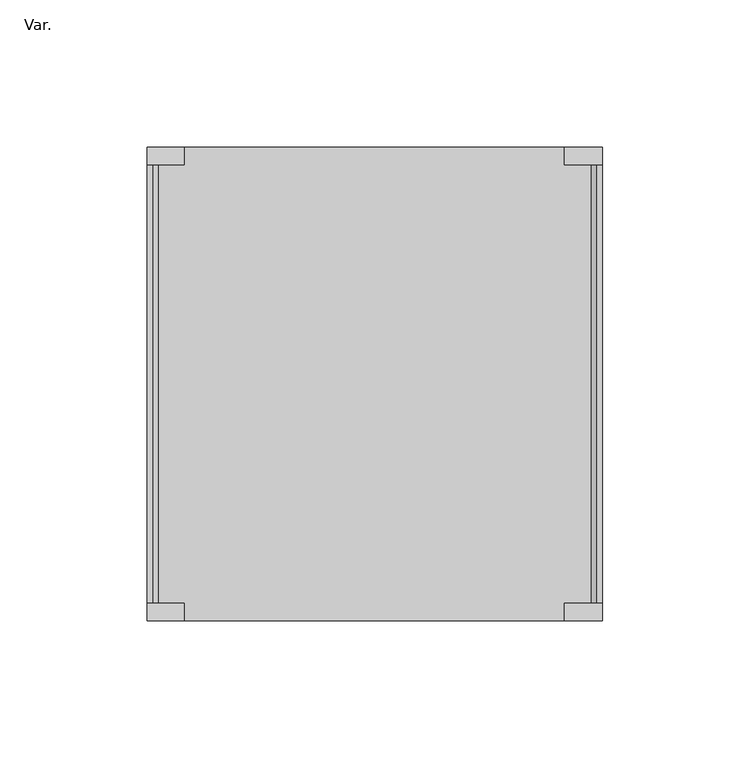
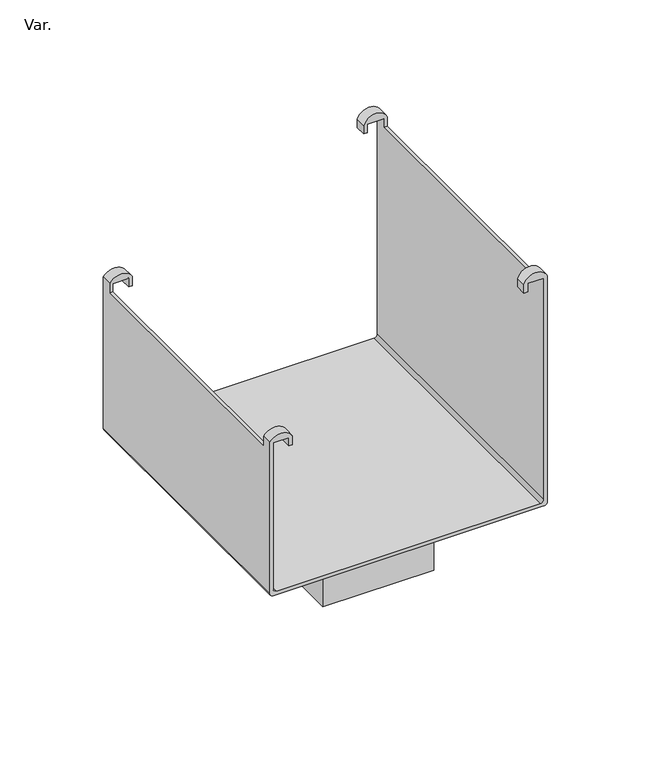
"""IFC4 building model written with IfcOpenShell, lengths in millimetres: pipe fitting geometry, AmancoWavin_Unionesdetubería_CanalesyBajantesZ_NoUsarBoquillaRectangularAltoCaudal : Var.."""

from ifc_helpers import new_model, si_unit, frame, origin, place, context, project, spatial, polyline, circle_curve, outline, extrude, source, transform, mapped, element, save
from ifc_brep_helpers import plane_surface, cylinder_surface, revolved_surface, advanced_brep


def var_f527e958(model_context):
    return source(origin(), model_context, "Body", "SolidModel", [
        advanced_brep(
        [(-75.6, 24.0, 2.1015351), (-75.6, 24.0, 88.3386875), (-66.8596126, 24.0, 88.3386875), (-66.8596126, 24.0, 83.410643), (-64.8391441, 24.0, 83.410643), (-64.8391441, 24.0, 88.7811864), (-77.4615797, 24.0, 89.2345275), (-77.4615797, 24.0, 0.0630881), (-75.5215619, 24.0, -1.8769298), (75.5307517, 24.0, -1.8769298), (77.4768961, 24.0, 0.0692146), (77.4768961, 24.0, 133.3447401), (64.4388817, 24.0, 132.5716882), (64.4388817, 24.0, 127.65), (66.4594409, 24.0, 127.65), (66.4594409, 24.0, 132.6386714), (75.6, 24.0, 132.6386714), (75.6, 24.0, 2.0815351), (73.58, 24.0, 0.0615351), (-73.56, 24.0, 0.0615351), (-75.6, 185.0, 2.1015351), (-73.56, 185.0, 0.0615351), (73.58, 185.0, 0.0615351), (75.6, 185.0, 2.0815351), (75.6, 185.0, 132.6386714), (66.4594409, 185.0, 132.6386714), (66.4594409, 185.0, 127.65), (64.4388817, 185.0, 127.65), (64.4388817, 185.0, 132.5716882), (77.4768961, 185.0, 133.3447401), (77.4768961, 185.0, 0.0692146), (75.5307517, 185.0, -1.8769298), (-75.5215619, 185.0, -1.8769298), (-77.4615797, 185.0, 0.0630881), (-77.4615797, 185.0, 89.2345275), (-64.8391441, 185.0, 88.7811864), (-64.8391441, 185.0, 83.410643), (-66.8596126, 185.0, 83.410643), (-66.8596126, 185.0, 88.3386875), (-75.6, 185.0, 88.3386875), (-77.4615797, 30.0, 89.2345275), (-77.4615797, 30.0, 83.41), (-77.4615797, 179.0, 83.41), (-77.4615797, 179.0, 89.2345275), (77.4768961, 179.0, 133.3447401), (77.4768961, 179.0, 127.65), (77.4768961, 30.0, 127.65), (77.4768961, 30.0, 133.3447401), (75.6, 30.0, 132.6386714), (75.6, 30.0, 127.65), (75.6, 179.0, 127.65), (75.6, 179.0, 132.6386714), (-75.6, 179.0, 88.3386875), (-75.6, 179.0, 83.41), (-75.6, 30.0, 83.41), (-75.6, 30.0, 88.3386875), (-66.8596126, 30.0, 88.3386875), (-66.8596126, 179.0, 88.3386875), (-66.8596126, 30.0, 83.410643), (-66.8596126, 179.0, 83.410643), (-64.8391441, 30.0, 83.410643), (-64.8391441, 179.0, 83.410643), (-64.8391441, 30.0, 88.7811864), (-64.8391441, 179.0, 88.7811864), (64.4388817, 30.0, 132.5716882), (64.4388817, 179.0, 132.5716882), (64.4388817, 30.0, 127.65), (64.4388817, 179.0, 127.65), (66.4594409, 30.0, 127.65), (66.4594409, 179.0, 127.65), (66.4594409, 30.0, 132.6386714), (66.4594409, 179.0, 132.6386714)],
        [
            (0, 1),
            (1, 2),
            (2, 3),
            (3, 4),
            (4, 5),
            (5, 6, circle_curve(frame((-71.2999013, 24.0, 84.8442116), z_axis=(0.0, -1.0, 0.0), x_axis=(1.0, 0.0, 0.0)), 7.5657884)),
            (6, 7),
            (7, 8, circle_curve(frame((-75.5215619, 24.0, 0.0630881), z_axis=(0.0, -1.0, 0.0), x_axis=(1.0, 0.0, 0.0)), 1.9400178)),
            (8, 9),
            (9, 10, circle_curve(frame((75.5307517, 24.0, 0.0692146), z_axis=(0.0, -1.0, 0.0), x_axis=(1.0, 0.0, 0.0)), 1.9461444)),
            (10, 11),
            (11, 12, circle_curve(frame((71.1017512, 24.0, 130.531885), z_axis=(0.0, -1.0, 0.0), x_axis=(1.0, 0.0, 0.0)), 6.968115)),
            (12, 13),
            (13, 14),
            (14, 15),
            (15, 16),
            (16, 17),
            (17, 18, circle_curve(frame((73.58, 24.0, 2.0815351), z_axis=(0.0, 1.0, 0.0), x_axis=(1.0, 0.0, 0.0)), 2.02)),
            (18, 19),
            (19, 0, circle_curve(frame((-73.56, 24.0, 2.1015351), z_axis=(0.0, 1.0, 0.0), x_axis=(1.0, 0.0, 0.0)), 2.04)),
            (20, 21, circle_curve(frame((-73.56, 185.0, 2.1015351), z_axis=(0.0, -1.0, 0.0), x_axis=(1.0, 0.0, 0.0)), 2.04)),
            (21, 22),
            (22, 23, circle_curve(frame((73.58, 185.0, 2.0815351), z_axis=(0.0, -1.0, 0.0), x_axis=(1.0, 0.0, 0.0)), 2.02)),
            (23, 24),
            (24, 25),
            (25, 26),
            (26, 27),
            (27, 28),
            (28, 29, circle_curve(frame((71.1017512, 185.0, 130.531885), z_axis=(0.0, 1.0, 0.0), x_axis=(1.0, 0.0, 0.0)), 6.968115)),
            (29, 30),
            (30, 31, circle_curve(frame((75.5307517, 185.0, 0.0692146), z_axis=(0.0, 1.0, 0.0), x_axis=(1.0, 0.0, 0.0)), 1.9461444)),
            (31, 32),
            (32, 33, circle_curve(frame((-75.5215619, 185.0, 0.0630881), z_axis=(0.0, 1.0, 0.0), x_axis=(1.0, 0.0, 0.0)), 1.9400178)),
            (33, 34),
            (34, 35, circle_curve(frame((-71.2999013, 185.0, 84.8442116), z_axis=(0.0, 1.0, 0.0), x_axis=(1.0, 0.0, 0.0)), 7.5657884)),
            (35, 36),
            (36, 37),
            (37, 38),
            (38, 39),
            (39, 20),
            (6, 40),
            (40, 41),
            (41, 42),
            (42, 43),
            (43, 34),
            (33, 7),
            (8, 32),
            (31, 9),
            (10, 30),
            (29, 44),
            (44, 45),
            (45, 46),
            (46, 47),
            (47, 11),
            (16, 48),
            (48, 49),
            (49, 50),
            (50, 51),
            (51, 24),
            (23, 17),
            (18, 22),
            (21, 19),
            (0, 20),
            (39, 52),
            (52, 53),
            (53, 54),
            (54, 55),
            (55, 1),
            (55, 56),
            (56, 2),
            (38, 57),
            (57, 52),
            (56, 58),
            (58, 3),
            (37, 59),
            (59, 57),
            (58, 60),
            (60, 4),
            (36, 61),
            (61, 59),
            (60, 62),
            (62, 5),
            (35, 63),
            (63, 61),
            (62, 40, circle_curve(frame((-71.2999013, 30.0, 84.8442116), z_axis=(0.0, -1.0, 0.0), x_axis=(1.0, 0.0, 0.0)), 7.5657884)),
            (43, 63, circle_curve(frame((-71.2999013, 179.0, 84.8442116), z_axis=(0.0, 1.0, 0.0), x_axis=(1.0, 0.0, 0.0)), 7.5657884)),
            (47, 64, circle_curve(frame((71.1017512, 30.0, 130.531885), z_axis=(0.0, -1.0, 0.0), x_axis=(1.0, 0.0, 0.0)), 6.968115)),
            (64, 12),
            (28, 65),
            (65, 44, circle_curve(frame((71.1017512, 179.0, 130.531885), z_axis=(0.0, 1.0, 0.0), x_axis=(1.0, 0.0, 0.0)), 6.968115)),
            (64, 66),
            (66, 13),
            (27, 67),
            (67, 65),
            (66, 68),
            (68, 14),
            (26, 69),
            (69, 67),
            (68, 70),
            (70, 15),
            (25, 71),
            (71, 69),
            (70, 48),
            (51, 71),
            (53, 42),
            (41, 54),
            (45, 50),
            (49, 46),
        ],
        [
            plane_surface(frame((-75.6, 24.0, 88.3386875), z_axis=(0.0, -1.0, 0.0), x_axis=(0.0, 0.0, 1.0))),
            plane_surface(frame((-75.6, 185.0, 88.3386875), z_axis=(0.0, 1.0, 0.0), x_axis=(0.0, 0.0, -1.0))),
            plane_surface(frame((-77.4615797, 24.0, 89.2345275), z_axis=(-1.0, 0.0, 0.0), x_axis=(0.0, 1.0, 0.0))),
            plane_surface(frame((-75.5215619, 24.0, -1.8769298), z_axis=(0.0, 0.0, -1.0), x_axis=(0.0, 1.0, 0.0))),
            plane_surface(frame((77.4768961, 24.0, 0.0692146), z_axis=(1.0, 0.0, 0.0), x_axis=(0.0, 1.0, 0.0))),
            plane_surface(frame((75.6, 24.0, 132.6386714), z_axis=(-1.0, 0.0, 0.0), x_axis=(0.0, 1.0, 0.0))),
            plane_surface(frame((73.58, 24.0, 0.0615351), z_axis=(0.0, 0.0, 1.0), x_axis=(0.0, 1.0, 0.0))),
            plane_surface(frame((-75.6, 24.0, 2.1015351), z_axis=(1.0, 0.0, 0.0), x_axis=(0.0, 1.0, 0.0))),
            plane_surface(frame((-75.6, 24.0, 88.3386875), z_axis=(0.0, 0.0, -1.0), x_axis=(0.0, 1.0, 0.0))),
            plane_surface(frame((-66.8596126, 24.0, 88.3386875), z_axis=(-1.0, 0.0, 0.0), x_axis=(0.0, 1.0, 0.0))),
            plane_surface(frame((-66.8596126, 24.0, 83.410643), z_axis=(0.0, 0.0, -1.0), x_axis=(0.0, 1.0, 0.0))),
            plane_surface(frame((-64.8391441, 24.0, 83.410643), z_axis=(1.0, 0.0, 0.0), x_axis=(0.0, 1.0, 0.0))),
            cylinder_surface(frame((-71.2999013, 185.0, 84.8442116), z_axis=(0.0, -1.0, 0.0), x_axis=(1.0, 0.0, 0.0)), 7.5657884),
            cylinder_surface(frame((71.1017512, 185.0, 130.531885), z_axis=(0.0, -1.0, 0.0), x_axis=(1.0, 0.0, 0.0)), 6.968115),
            plane_surface(frame((64.4388817, 24.0, 132.5716882), z_axis=(-1.0, 0.0, 0.0), x_axis=(0.0, 1.0, 0.0))),
            plane_surface(frame((64.4388817, 24.0, 127.65), z_axis=(0.0, 0.0, -1.0), x_axis=(0.0, 1.0, 0.0))),
            plane_surface(frame((66.4594409, 24.0, 127.65), z_axis=(1.0, 0.0, 0.0), x_axis=(0.0, 1.0, 0.0))),
            plane_surface(frame((66.4594409, 24.0, 132.6386714), z_axis=(0.0, 0.0, -1.0), x_axis=(0.0, 1.0, 0.0))),
            cylinder_surface(frame((-75.5215619, 185.0, 0.0630881), z_axis=(0.0, -1.0, 0.0), x_axis=(1.0, 0.0, 0.0)), 1.9400178),
            cylinder_surface(frame((75.5307517, 185.0, 0.0692146), z_axis=(0.0, -1.0, 0.0), x_axis=(1.0, 0.0, 0.0)), 1.9461444),
            revolved_surface(polyline([(75.6, 185.0, 2.0815351), (75.6, 24.0, 2.0815351)]), (73.58, 185.0, 2.0815351), (0.0, 1.0, 0.0)),
            revolved_surface(polyline([(-71.52, 185.0, 2.1015351), (-71.52, 24.0, 2.1015351)]), (-73.56, 185.0, 2.1015351), (0.0, 1.0, 0.0)),
            plane_surface(frame((-75.6, 179.0, 83.41), z_axis=(0.0, 0.0, 1.0), x_axis=(1.0, 0.0, 0.0))),
            plane_surface(frame((-64.8391441, 179.0, 92.8702181), z_axis=(0.0, -1.0, 0.0), x_axis=(0.0, 0.0, -1.0))),
            plane_surface(frame((-77.4615797, 30.0, 92.8702181), z_axis=(0.0, 1.0, 0.0), x_axis=(0.0, 0.0, -1.0))),
            plane_surface(frame((64.4388817, 179.0, 127.65), z_axis=(0.0, 0.0, 1.0), x_axis=(1.0, 0.0, 0.0))),
            plane_surface(frame((77.4768961, 179.0, 137.9622861), z_axis=(0.0, -1.0, 0.0), x_axis=(0.0, 0.0, -1.0))),
            plane_surface(frame((64.4388817, 30.0, 137.9622861), z_axis=(0.0, 1.0, 0.0), x_axis=(0.0, 0.0, -1.0))),
        ],
        [
            (0, [[1, 2, 3, 4, 5, 6, 7, 8, 9, 10, 11, 12, 13, 14, 15, 16, 17, 18, 19, 20]]),
            (1, [[21, 22, 23, 24, 25, 26, 27, 28, 29, 30, 31, 32, 33, 34, 35, 36, 37, 38, 39, 40]]),
            (2, [[-7, 41, 42, 43, 44, 45, -34, 46]]),
            (3, [[-9, 47, -32, 48]]),
            (4, [[-11, 49, -30, 50, 51, 52, 53, 54]]),
            (5, [[-17, 55, 56, 57, 58, 59, -24, 60]]),
            (6, [[-19, 61, -22, 62]]),
            (7, [[-1, 63, -40, 64, 65, 66, 67, 68]]),
            (8, [[-2, -68, 69, 70]]),
            (8, [[-39, 71, 72, -64]]),
            (9, [[-3, -70, 73, 74]]),
            (9, [[-38, 75, 76, -71]]),
            (10, [[-4, -74, 77, 78]]),
            (10, [[-37, 79, 80, -75]]),
            (11, [[-5, -78, 81, 82]]),
            (11, [[-36, 83, 84, -79]]),
            (12, [[-6, -82, 85, -41]]),
            (12, [[-35, -45, 86, -83]]),
            (13, [[-12, -54, 87, 88]]),
            (13, [[-29, 89, 90, -50]]),
            (14, [[-13, -88, 91, 92]]),
            (14, [[-28, 93, 94, -89]]),
            (15, [[-14, -92, 95, 96]]),
            (15, [[-27, 97, 98, -93]]),
            (16, [[-15, -96, 99, 100]]),
            (16, [[-26, 101, 102, -97]]),
            (17, [[-16, -100, 103, -55]]),
            (17, [[-25, -59, 104, -101]]),
            (18, [[-8, -46, -33, -47]]),
            (19, [[-10, -48, -31, -49]]),
            (20, [[-18, -60, -23, -61]]),
            (21, [[-20, -62, -21, -63]]),
            (22, [[105, -43, 106, -66]]),
            (23, [[-105, -65, -72, -76, -80, -84, -86, -44]]),
            (24, [[-106, -42, -85, -81, -77, -73, -69, -67]]),
            (25, [[107, -57, 108, -52]]),
            (26, [[-107, -51, -90, -94, -98, -102, -104, -58]]),
            (27, [[-108, -56, -103, -99, -95, -91, -87, -53]]),
        ],
    ),
        extrude(outline(polyline([(-31.05, 155.65), (31.05, 155.65), (31.05, 53.35), (-31.05, 53.35), (-31.05, 155.65)]), holes=[polyline([(29.75, 154.35), (-29.75, 154.35), (-29.75, 54.65), (29.75, 54.65), (29.75, 154.35)])]), frame((0.0, 0.0, -42.0), z_axis=(0.0, 0.0, 1.0), x_axis=(1.0, 0.0, 0.0)), (0.0, 0.0, 1.0), 40.1230702),
    ])


if __name__ == "__main__":
    model = new_model("IFC4")
    model_context = context("Model", 3, world=origin())
    ifc_project = project(units=[si_unit("LENGTHUNIT", "METRE", prefix="MILLI")], contexts=[model_context])
    site = spatial("IfcSite", under=ifc_project)
    building = spatial("IfcBuilding", under=site)
    placement = place(None, origin())
    var_shape = var_f527e958(model_context)
    element("IfcPipeFitting", 1, ObjectType="AmancoWavin_Unionesdetubería_CanalesyBajantesZ_NoUsarBoquillaRectangularAltoCaudal : Var.", at=placement, inside=building, context=model_context, shape_type="MappedRepresentation", body=[
        mapped(var_shape, transform((0.0, 0.0, 0.0), x_axis=(1.0, 0.0, 0.0), y_axis=(0.0, 1.0, 0.0), z_axis=(0.0, 0.0, 1.0))),
    ])
    save(model, "model.ifc")
